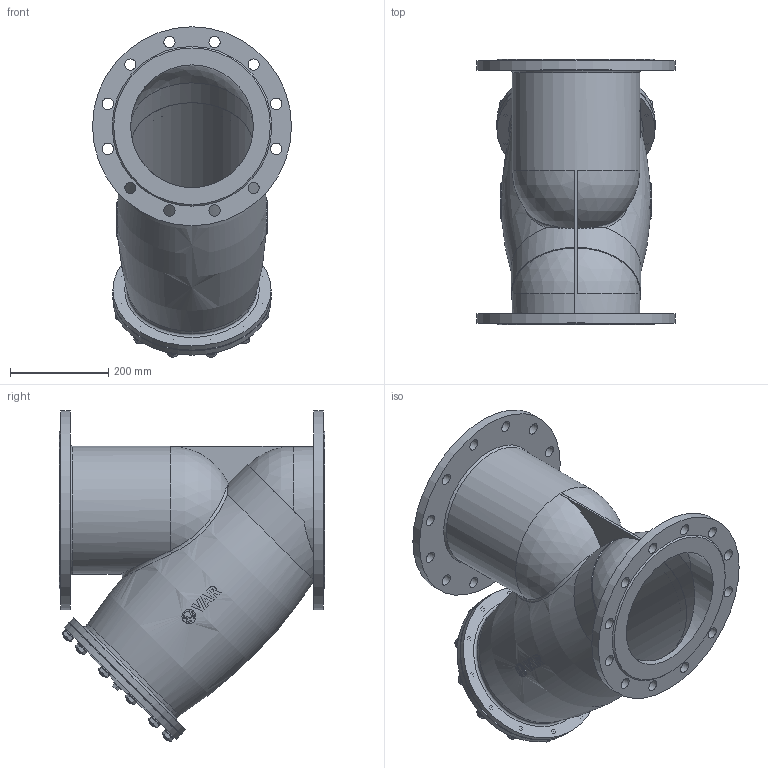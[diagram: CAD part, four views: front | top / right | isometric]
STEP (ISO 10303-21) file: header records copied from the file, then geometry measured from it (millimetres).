
FILE_DESCRIPTION(('STEP AP203'), '1');
FILE_NAME('VAR STRAINER ôèëüòð-ãðÿçåóëîâèòåëü', '', ('UNSPECIFIED'), ('UNSPECIFIED'), 'C3D Converter', 'C3D Toolkit', '');
FILE_SCHEMA(('CONFIG_CONTROL_DESIGN'));
Length unit declared in the file: millimetre
Assembly tree (41 placements, depth 2):
  (unnamed)
    (unnamed)
    (unnamed)
    (unnamed)  x12
    (unnamed)  x12
    (unnamed)  x12
    (unnamed)
    (unnamed)
    (unnamed)
Bounding box: 405 x 540 x 672.5 mm (x, y, z)
Volume: 8931308.1 mm3; surface area: 2650022.2 mm2
Topology: 42 solids, 42 shells, 655 faces, 1550 edges, 1010 vertices
Faces by surface type: plane 271, extrusion 134, cylinder 122, cone 87, torus 27, sphere 8, bspline 6
Full cylindrical faces by diameter (mm): 12 x36, 13 x12, 14 x14, 21 x1, 23 x24, 24 x12, 28.42 x1, 250 x6, 254 x3, 260 x1, 264 x1, 268 x1, 270 x2, 322 x2, 405 x2
Entity records: 28535 total; most frequent: CARTESIAN_POINT 16169, ORIENTED_EDGE 1898, DIRECTION 1509, EDGE_CURVE 949, VERTEX_POINT 688, EDGE_LOOP 631, B_SPLINE_CURVE_WITH_KNOTS 569, AXIS2_PLACEMENT_3D 556
